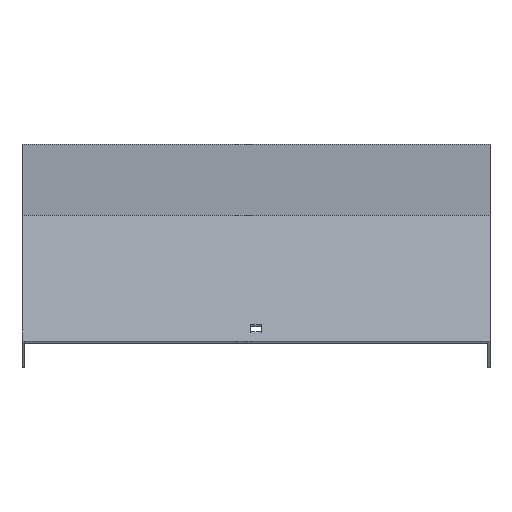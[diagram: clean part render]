
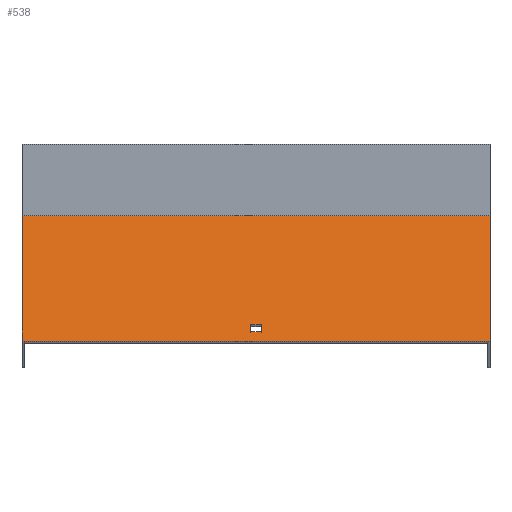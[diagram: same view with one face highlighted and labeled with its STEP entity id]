
A CAD part, top view. The second image highlights one B-rep face of the part: STEP entity #538.
In plain terms, the highlighted planar face has unit normal (0, 0.866, 0.5).
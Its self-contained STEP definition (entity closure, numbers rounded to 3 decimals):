
#9 = DIRECTION ( 'NONE',  ( 0., 0.5, -0.866 ) ) ;
#11 = VERTEX_POINT ( 'NONE', #793 ) ;
#14 = DIRECTION ( 'NONE',  ( 0., -0.866, -0.5 ) ) ;
#20 = VECTOR ( 'NONE', #572, 1000. ) ;
#23 = DIRECTION ( 'NONE',  ( 0., -0.5, 0.866 ) ) ;
#25 = EDGE_CURVE ( 'NONE', #622, #502, #180, .T. ) ;
#49 = VECTOR ( 'NONE', #695, 1000. ) ;
#51 = EDGE_LOOP ( 'NONE', ( #307, #95, #498, #771 ) ) ;
#95 = ORIENTED_EDGE ( 'NONE', *, *, #379, .F. ) ;
#98 = VECTOR ( 'NONE', #741, 1000. ) ;
#138 = VERTEX_POINT ( 'NONE', #335 ) ;
#139 = LINE ( 'NONE', #415, #49 ) ;
#158 = CARTESIAN_POINT ( 'NONE',  ( -3.25, -97.473, 459.415 ) ) ;
#176 = ORIENTED_EDGE ( 'NONE', *, *, #816, .T. ) ;
#180 = LINE ( 'NONE', #316, #328 ) ;
#192 = CARTESIAN_POINT ( 'NONE',  ( 3.25, -27.973, 339.037 ) ) ;
#200 = CARTESIAN_POINT ( 'NONE',  ( 151.5, -107.973, 477.601 ) ) ;
#207 = EDGE_CURVE ( 'NONE', #710, #309, #702, .T. ) ;
#227 = VECTOR ( 'NONE', #270, 1000. ) ;
#233 = EDGE_CURVE ( 'NONE', #11, #138, #139, .T. ) ;
#248 = CARTESIAN_POINT ( 'NONE',  ( 3.25, -97.473, 459.415 ) ) ;
#264 = DIRECTION ( 'NONE',  ( 0., -0.5, 0.866 ) ) ;
#270 = DIRECTION ( 'NONE',  ( -1., 0., 0. ) ) ;
#287 = VECTOR ( 'NONE', #264, 1000. ) ;
#290 = VERTEX_POINT ( 'NONE', #706 ) ;
#307 = ORIENTED_EDGE ( 'NONE', *, *, #745, .T. ) ;
#309 = VERTEX_POINT ( 'NONE', #200 ) ;
#316 = CARTESIAN_POINT ( 'NONE',  ( 151.5, -97.473, 459.415 ) ) ;
#328 = VECTOR ( 'NONE', #459, 1000. ) ;
#335 = CARTESIAN_POINT ( 'NONE',  ( -3.25, -101.973, 467.209 ) ) ;
#341 = LINE ( 'NONE', #402, #227 ) ;
#367 = VERTEX_POINT ( 'NONE', #676 ) ;
#374 = ORIENTED_EDGE ( 'NONE', *, *, #497, .T. ) ;
#376 = LINE ( 'NONE', #528, #518 ) ;
#379 = EDGE_CURVE ( 'NONE', #309, #367, #341, .T. ) ;
#402 = CARTESIAN_POINT ( 'NONE',  ( 151.5, -107.973, 477.601 ) ) ;
#406 = LINE ( 'NONE', #192, #287 ) ;
#409 = EDGE_CURVE ( 'NONE', #710, #290, #531, .T. ) ;
#415 = CARTESIAN_POINT ( 'NONE',  ( 151.5, -101.973, 467.209 ) ) ;
#459 = DIRECTION ( 'NONE',  ( 1., 0., 0. ) ) ;
#466 = FACE_OUTER_BOUND ( 'NONE', #51, .T. ) ;
#497 = EDGE_CURVE ( 'NONE', #502, #11, #406, .T. ) ;
#498 = ORIENTED_EDGE ( 'NONE', *, *, #207, .F. ) ;
#502 = VERTEX_POINT ( 'NONE', #248 ) ;
#505 = CARTESIAN_POINT ( 'NONE',  ( -151.5, -27.973, 339.037 ) ) ;
#518 = VECTOR ( 'NONE', #9, 1000. ) ;
#528 = CARTESIAN_POINT ( 'NONE',  ( -3.25, -27.973, 339.037 ) ) ;
#531 = LINE ( 'NONE', #804, #98 ) ;
#538 = ADVANCED_FACE ( 'NONE', ( #689, #466 ), #600, .F. ) ;
#572 = DIRECTION ( 'NONE',  ( 0., -0.5, 0.866 ) ) ;
#593 = ORIENTED_EDGE ( 'NONE', *, *, #233, .T. ) ;
#600 = PLANE ( 'NONE',  #752 ) ;
#622 = VERTEX_POINT ( 'NONE', #158 ) ;
#676 = CARTESIAN_POINT ( 'NONE',  ( -151.5, -107.973, 477.601 ) ) ;
#689 = FACE_BOUND ( 'NONE', #773, .T. ) ;
#695 = DIRECTION ( 'NONE',  ( -1., 0., 0. ) ) ;
#702 = LINE ( 'NONE', #756, #722 ) ;
#706 = CARTESIAN_POINT ( 'NONE',  ( -151.5, -26.656, 336.757 ) ) ;
#710 = VERTEX_POINT ( 'NONE', #721 ) ;
#721 = CARTESIAN_POINT ( 'NONE',  ( 151.5, -26.656, 336.757 ) ) ;
#722 = VECTOR ( 'NONE', #23, 1000. ) ;
#741 = DIRECTION ( 'NONE',  ( -1., 0., 0. ) ) ;
#745 = EDGE_CURVE ( 'NONE', #290, #367, #841, .T. ) ;
#752 = AXIS2_PLACEMENT_3D ( 'NONE', #811, #14, #800 ) ;
#756 = CARTESIAN_POINT ( 'NONE',  ( 151.5, -27.973, 339.037 ) ) ;
#771 = ORIENTED_EDGE ( 'NONE', *, *, #409, .T. ) ;
#773 = EDGE_LOOP ( 'NONE', ( #831, #374, #593, #176 ) ) ;
#793 = CARTESIAN_POINT ( 'NONE',  ( 3.25, -101.973, 467.209 ) ) ;
#800 = DIRECTION ( 'NONE',  ( 0., 0.5, -0.866 ) ) ;
#804 = CARTESIAN_POINT ( 'NONE',  ( 151.5, -26.656, 336.757 ) ) ;
#811 = CARTESIAN_POINT ( 'NONE',  ( 151.5, -27.973, 339.037 ) ) ;
#816 = EDGE_CURVE ( 'NONE', #138, #622, #376, .T. ) ;
#831 = ORIENTED_EDGE ( 'NONE', *, *, #25, .T. ) ;
#841 = LINE ( 'NONE', #505, #20 ) ;
